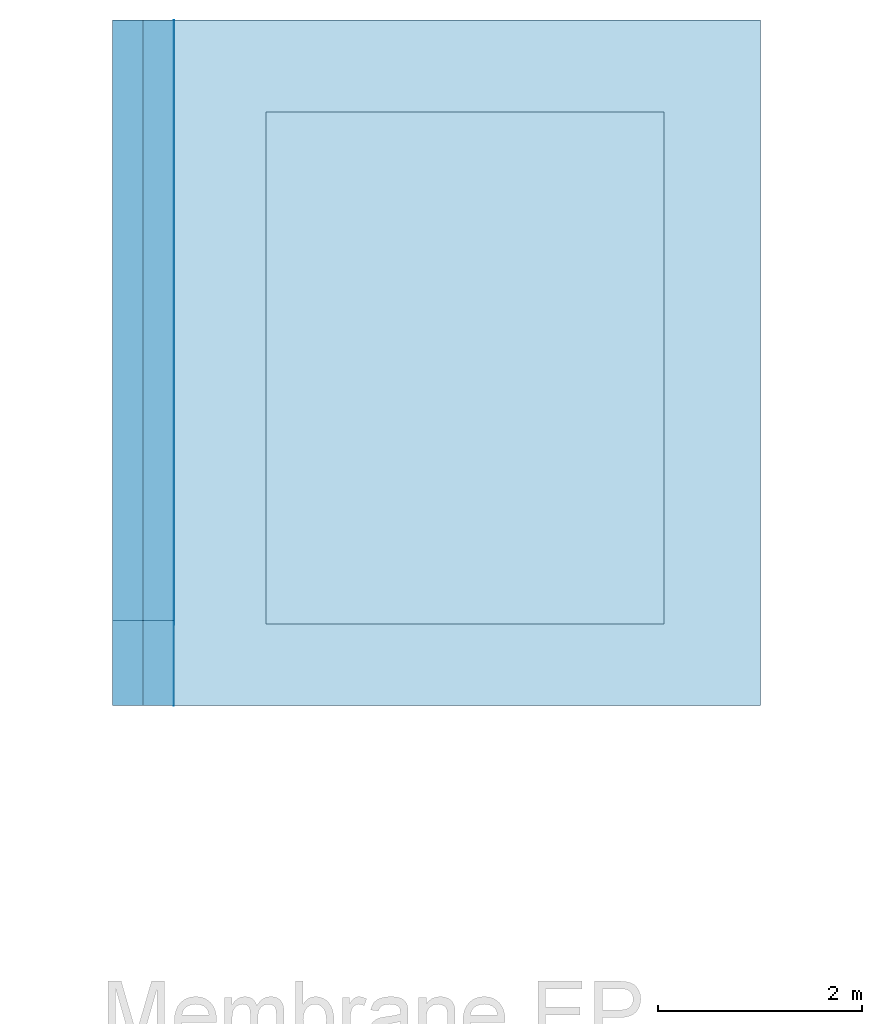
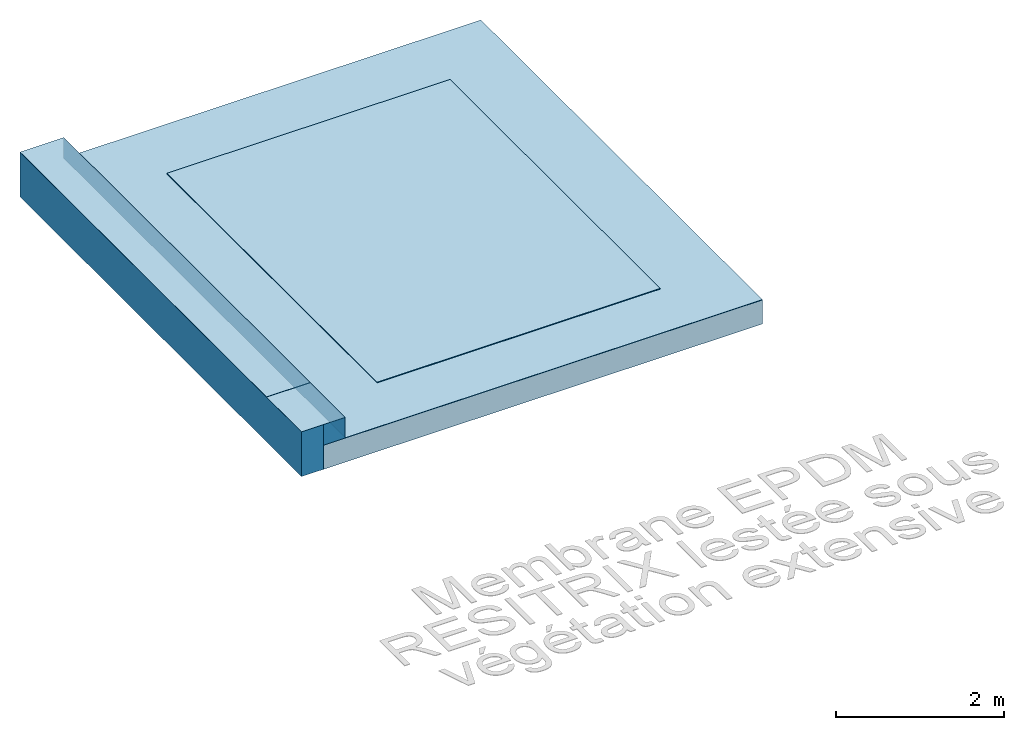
# One storey, incomplete: 5 slabs, 4 walls, 5 elements without a shape of their own.
"""IFC2X3 building model written with IfcOpenShell, lengths in millimetres."""

from ifc_helpers import new_model, entity, si_unit, converted_unit, derived_unit, direction, frame, frame_2d, origin, place, context, subcontext, project, spatial, rectangle, extrude, clip, halfspace, material, layer, layer_set, layer_usage, type_object, element, aggregate, save


model = new_model("IFC2X3")

# Units and contexts
model_context = context("Model", 3, precision=0.01, world=origin(), true_north=direction((6.12303176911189e-17, 1.0)))
body_context = subcontext(model_context, "Body", "Model", "MODEL_VIEW")
ifc_project = project(units=[si_unit("LENGTHUNIT", "METRE", prefix="MILLI"), si_unit("AREAUNIT", "SQUARE_METRE"), si_unit("VOLUMEUNIT", "CUBIC_METRE"), converted_unit("PLANEANGLEUNIT", "DEGREE", entity("IfcRatioMeasure", 0.0174532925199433), si_unit("PLANEANGLEUNIT", "RADIAN"), dimensions=[0, 0, 0, 0, 0, 0, 0]), si_unit("MASSUNIT", "GRAM", prefix="KILO"), derived_unit("MASSDENSITYUNIT", [(si_unit("MASSUNIT", "GRAM", prefix="KILO"), 1), (si_unit("LENGTHUNIT", "METRE"), -3)]), derived_unit("MOMENTOFINERTIAUNIT", [(si_unit("LENGTHUNIT", "METRE"), 4)]), si_unit("TIMEUNIT", "SECOND"), si_unit("FREQUENCYUNIT", "HERTZ"), si_unit("THERMODYNAMICTEMPERATUREUNIT", "DEGREE_CELSIUS"), derived_unit("THERMALTRANSMITTANCEUNIT", [(si_unit("MASSUNIT", "GRAM", prefix="KILO"), 1), (si_unit("THERMODYNAMICTEMPERATUREUNIT", "KELVIN"), -1), (si_unit("TIMEUNIT", "SECOND"), -3)]), derived_unit("VOLUMETRICFLOWRATEUNIT", [(si_unit("LENGTHUNIT", "METRE"), 3), (si_unit("TIMEUNIT", "SECOND"), -1)]), si_unit("ELECTRICCURRENTUNIT", "AMPERE"), si_unit("ELECTRICVOLTAGEUNIT", "VOLT"), si_unit("POWERUNIT", "WATT"), si_unit("FORCEUNIT", "NEWTON", prefix="KILO"), si_unit("ILLUMINANCEUNIT", "LUX"), si_unit("LUMINOUSFLUXUNIT", "LUMEN"), si_unit("LUMINOUSINTENSITYUNIT", "CANDELA"), derived_unit("USERDEFINED", [(si_unit("MASSUNIT", "GRAM", prefix="KILO"), -1), (si_unit("LENGTHUNIT", "METRE"), -2), (si_unit("TIMEUNIT", "SECOND"), 3), (si_unit("LUMINOUSFLUXUNIT", "LUMEN"), 1)]), derived_unit("LINEARVELOCITYUNIT", [(si_unit("LENGTHUNIT", "METRE"), 1), (si_unit("TIMEUNIT", "SECOND"), -1)]), si_unit("PRESSUREUNIT", "PASCAL"), derived_unit("USERDEFINED", [(si_unit("LENGTHUNIT", "METRE"), -2), (si_unit("MASSUNIT", "GRAM", prefix="KILO"), 1), (si_unit("TIMEUNIT", "SECOND"), -2)]), derived_unit("LINEARFORCEUNIT", [(si_unit("MASSUNIT", "GRAM", prefix="KILO"), 1), (si_unit("LENGTHUNIT", "METRE"), 1), (si_unit("TIMEUNIT", "SECOND"), -2), (si_unit("LENGTHUNIT", "METRE"), -1)]), derived_unit("PLANARFORCEUNIT", [(si_unit("MASSUNIT", "GRAM", prefix="KILO"), 1), (si_unit("LENGTHUNIT", "METRE"), 1), (si_unit("TIMEUNIT", "SECOND"), -2), (si_unit("LENGTHUNIT", "METRE"), -2)])], contexts=[model_context])

# Site, building, storey
site_placement = place(None, origin())
site = spatial("IfcSite", under=ifc_project, at=site_placement, Name="Default", CompositionType="ELEMENT")
building_placement = place(site_placement, origin())
building = spatial("IfcBuilding", under=site, at=building_placement, CompositionType="ELEMENT")
storey_placement = place(building_placement, origin())
storey = spatial("IfcBuildingStorey", under=building, at=storey_placement, Name="Niveau 1", CompositionType="ELEMENT", Elevation=0.0)

# Roof, slab
roof_1_placement = place(storey_placement, frame((39627.7553681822, 5160.62545921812, 135.2)))
roof_1 = element("IfcRoof", 1, at=roof_1_placement, inside=storey, Name="Toit de base:Membrane RESITRIX EPDM lestée avec végétation extensive", ObjectType="Toit de base:Membrane RESITRIX EPDM lestée avec végétation extensive", ShapeType="NOTDEFINED")
ifc_material_1 = material(Name="Membrane Resitrix EPDM lestée avec végétation extensive")
ifc_layer_1 = layer(ifc_material_1, 2.1)
ifc_material_2 = material(Name="Armature en fibre de verre")
ifc_layer_2 = layer(ifc_material_2, 1.0)
ifc_layer_set_1 = layer_set([ifc_layer_1, ifc_layer_2], Name="Toit de base:Membrane RESITRIX EPDM lestée avec végétation extensive")
slab_type_1 = type_object("IfcSlabType", Name="Toit de base:Membrane RESITRIX EPDM lestée avec végétation extensive", PredefinedType="ROOF")
slab_1_placement = place(roof_1_placement, origin())
slab_1 = element("IfcSlab", 2, at=slab_1_placement, type_object=slab_type_1, material=ifc_layer_set_1, Name="Toit de base:Membrane RESITRIX EPDM lestée avec végétation extensive", ObjectType="Toit de base:Membrane RESITRIX EPDM lestée avec végétation extensive", PredefinedType="ROOF", context=body_context, shape_type="SweptSolid", body=[
    extrude(rectangle(XDim=6714.46153846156, YDim=5746.95000000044, at=frame_2d((0.0, 4.54747350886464e-13), x_axis=(0.0, 1.0))), frame((2873.47500000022, 3357.23076923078, 0.0)), (0.0, 0.0, 1.0), 3.10000000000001),
])
aggregate(roof_1, [slab_1])

roof_2_placement = place(storey_placement, frame((39327.7553681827, 5160.62545921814, -215.6)))
roof_2 = element("IfcRoof", 3, at=roof_2_placement, inside=storey, Name="Toit de base:Toit 1", ObjectType="Toit de base:Toit 1", ShapeType="NOTDEFINED")
ifc_material_3 = material(Name="Isolation")
ifc_layer_3 = layer(ifc_material_3, 100.0)
ifc_material_4 = material(Name="Pare vapeur")
ifc_layer_4 = layer(ifc_material_4, 0.8)
ifc_material_5 = material(Name="Béton de pente")
ifc_layer_5 = layer(ifc_material_5, 50.0)
ifc_material_6 = material(Name="Structure porteuse")
ifc_layer_6 = layer(ifc_material_6, 200.0)
ifc_layer_set_2 = layer_set([ifc_layer_3, ifc_layer_4, ifc_layer_5, ifc_layer_6], Name="Toit de base:Toit 1")
slab_type_2 = type_object("IfcSlabType", Name="Toit de base:Toit 1", PredefinedType="ROOF")
slab_2_placement = place(roof_2_placement, origin())
slab_2 = element("IfcSlab", 4, at=slab_2_placement, type_object=slab_type_2, material=ifc_layer_set_2, Name="Toit de base:Toit 1", ObjectType="Toit de base:Toit 1", PredefinedType="ROOF", context=body_context, shape_type="SweptSolid", body=[
    extrude(rectangle(XDim=6046.95, YDim=6714.46153846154, at=frame_2d((4.32009983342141e-12, 0.0), x_axis=(1.0, 0.0))), frame((3023.47499999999, 3357.23076923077, 0.0)), (0.0, 0.0, 1.0), 350.8),
])
aggregate(roof_2, [slab_2])

roof_3_placement = place(storey_placement, frame((39027.7553681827, 5994.95285740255, 436.0)))
roof_3 = element("IfcRoof", 5, at=roof_3_placement, inside=storey, Name="Toit de base:Membrane RESITRIX SK W Full bond colléé", ObjectType="Toit de base:Membrane RESITRIX SK W Full bond colléé", ShapeType="NOTDEFINED")
ifc_material_7 = material(Name="Caoutchouc EPDM SK W Full bond collée")
ifc_layer_7 = layer(ifc_material_7, 1.5)
ifc_layer_8 = layer(ifc_material_2, 1.0)
ifc_layer_set_3 = layer_set([ifc_layer_7, ifc_layer_8], Name="Toit de base:Membrane RESITRIX SK W Full bond colléé")
slab_type_3 = type_object("IfcSlabType", Name="Toit de base:Membrane RESITRIX SK W Full bond colléé", PredefinedType="ROOF")
slab_3_placement = place(roof_3_placement, origin())
slab_3 = element("IfcSlab", 6, at=slab_3_placement, type_object=slab_type_3, material=ifc_layer_set_3, Name="Toit de base:Membrane RESITRIX SK W Full bond colléé", ObjectType="Toit de base:Membrane RESITRIX SK W Full bond colléé", PredefinedType="ROOF", context=body_context, shape_type="SweptSolid", body=[
    extrude(rectangle(XDim=5880.0, YDim=603.300000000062, at=frame_2d((0.0, 6.82121026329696e-13), x_axis=(0.0, 1.0))), frame((301.650000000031, 2940.0, 0.0)), (0.0, 0.0, 1.0), 2.49999999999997),
])
aggregate(roof_3, [slab_3])

roof_4_placement = place(storey_placement, frame((39027.7553681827, 5160.49131894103, 435.2)))
roof_4 = element("IfcRoof", 7, at=roof_4_placement, inside=storey, Name="Toit de base:Primer d’adhérence FG35", ObjectType="Toit de base:Primer d’adhérence FG35", ShapeType="NOTDEFINED")
ifc_material_8 = material(Name="Primer d’adhérence FG35")
ifc_layer_9 = layer(ifc_material_8, 0.8)
ifc_layer_set_4 = layer_set([ifc_layer_9], Name="Toit de base:Primer d’adhérence FG35")
slab_type_4 = type_object("IfcSlabType", Name="Toit de base:Primer d’adhérence FG35", PredefinedType="ROOF")
slab_4_placement = place(roof_4_placement, origin())
slab_4 = element("IfcSlab", 8, at=slab_4_placement, type_object=slab_type_4, material=ifc_layer_set_4, Name="Toit de base:Primer d’adhérence FG35", ObjectType="Toit de base:Primer d’adhérence FG35", PredefinedType="ROOF", context=body_context, shape_type="SweptSolid", body=[
    extrude(rectangle(XDim=6714.46153846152, YDim=603.300000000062, at=frame_2d((0.0, 4.54747350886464e-13), x_axis=(0.0, 1.0))), frame((301.650000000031, 3357.23076923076, 0.0)), (0.0, 0.0, 1.0), 0.800000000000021),
])
aggregate(roof_4, [slab_4])

roof_5_placement = place(storey_placement, frame((40529.8053681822, 5960.491318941, 138.3)))
roof_5 = element("IfcRoof", 9, at=roof_5_placement, inside=storey, Name="Toit de base:Végétation", ObjectType="Toit de base:Végétation", ShapeType="NOTDEFINED")
ifc_material_9 = material(Name="Végétation extensive")
ifc_layer_10 = layer(ifc_material_9, 10.0)
ifc_layer_set_5 = layer_set([ifc_layer_10], Name="Toit de base:Végétation")
slab_type_5 = type_object("IfcSlabType", Name="Toit de base:Végétation", PredefinedType="ROOF")
slab_5_placement = place(roof_5_placement, origin())
slab_5 = element("IfcSlab", 10, at=slab_5_placement, type_object=slab_type_5, material=ifc_layer_set_5, Name="Toit de base:Végétation", ObjectType="Toit de base:Végétation", PredefinedType="ROOF", context=body_context, shape_type="SweptSolid", body=[
    extrude(rectangle(XDim=5015.46153846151, YDim=3900.0, at=frame_2d((0.0, 6.82121026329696e-13), x_axis=(0.0, 1.0))), frame((1950.0, 2507.73076923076, 0.0)), (0.0, 0.0, 1.0), 9.99999999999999),
])
aggregate(roof_5, [slab_5])

# Walls
ifc_layer_11 = layer(ifc_material_3, 100.0)
ifc_material_10 = material(Name="Maçonnerie ascendante")
ifc_layer_12 = layer(ifc_material_10, 200.0)
ifc_layer_set_6 = layer_set([ifc_layer_11, ifc_layer_12], Name="Mur de base:Mur 1")
ifc_layer_usage_1 = layer_usage(ifc_layer_set_6, "AXIS2", "NEGATIVE", 150.0)
wall_type_1 = type_object("IfcWallType", Name="Mur de base:Mur 1", PredefinedType="STANDARD", material=ifc_layer_set_6)
wall_1_placement = place(storey_placement, frame((39177.7553681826, 11875.0869976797, -215.6), z_axis=(0.0, 0.0, 1.0), x_axis=(0.0, -1.0, 0.0)))
element("IfcWallStandardCase", 11, at=wall_1_placement, inside=storey, type_object=wall_type_1, material=ifc_layer_usage_1, Name="Mur de base:Mur 1", ObjectType="Mur de base:Mur 1", context=body_context, shape_type="SweptSolid", body=[
    extrude(rectangle(XDim=6714.46153846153, YDim=300.000000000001, at=frame_2d((3357.23076923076, 2.71427325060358e-12), x_axis=(-1.0, 0.0))), origin(), (0.0, 0.0, 1.0), 650.8),
])
ifc_layer_usage_2 = layer_usage(ifc_layer_set_6, "AXIS2", "NEGATIVE", 150.0)
wall_2_placement = place(storey_placement, frame((39477.7553681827, 11875.0869976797, 135.2), z_axis=(0.0, 0.0, 1.0), x_axis=(0.0, -1.0, 0.0)))
element("IfcWallStandardCase", 12, at=wall_2_placement, inside=storey, type_object=wall_type_1, material=ifc_layer_usage_2, Name="Mur de base:Mur 1", ObjectType="Mur de base:Mur 1", context=body_context, shape_type="Clipping", body=[
    clip(extrude(rectangle(XDim=6714.46153846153, YDim=300.000000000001, at=frame_2d((3357.23076923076, 2.71427325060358e-12), x_axis=(-1.0, 0.0))), origin(), (0.0, 0.0, 1.0), 300.0), halfspace(frame((6714.46153846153, -150.0, 0.0), z_axis=(0.0, 0.0, -1.0), x_axis=(0.0, 1.0, 0.0)), False)),
])
ifc_layer_13 = layer(ifc_material_7, 1.5)
ifc_layer_14 = layer(ifc_material_2, 1.0)
ifc_layer_set_7 = layer_set([ifc_layer_13, ifc_layer_14], Name="Mur de base:Membrane RESITRIX SK W EPDM Full bond")
ifc_layer_usage_3 = layer_usage(ifc_layer_set_7, "AXIS2", "NEGATIVE", 1.25)
wall_type_2 = type_object("IfcWallType", Name="Mur de base:Membrane RESITRIX SK W EPDM Full bond", PredefinedType="STANDARD", material=ifc_layer_set_7)
wall_3_placement = place(storey_placement, frame((39629.8053681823, 11874.9528574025, 139.1), z_axis=(0.0, 0.0, 1.0), x_axis=(0.0, -1.0, 0.0)))
element("IfcWallStandardCase", 13, at=wall_3_placement, inside=storey, type_object=wall_type_2, material=ifc_layer_usage_3, Name="Mur de base:Membrane RESITRIX SK W EPDM Full bond", ObjectType="Mur de base:Membrane RESITRIX SK W EPDM Full bond", context=body_context, shape_type="SweptSolid", body=[
    extrude(rectangle(XDim=5920.0, YDim=2.50000000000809, at=frame_2d((2960.0, -3.43025607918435e-12), x_axis=(-1.0, 0.0))), origin(), (0.0, 0.0, 1.0), 296.1),
])
ifc_layer_15 = layer(ifc_material_8, 0.8)
ifc_layer_set_8 = layer_set([ifc_layer_15], Name="Mur de base:Primer d’adhérence FG35")
ifc_layer_usage_4 = layer_usage(ifc_layer_set_8, "AXIS2", "NEGATIVE", 0.4)
wall_type_3 = type_object("IfcWallType", Name="Mur de base:Primer d’adhérence FG35", PredefinedType="STANDARD", material=ifc_layer_set_8)
wall_4_placement = place(storey_placement, frame((39628.1553681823, 11874.9528574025, 139.1), z_axis=(0.0, 0.0, 1.0), x_axis=(0.0, -1.0, 0.0)))
element("IfcWallStandardCase", 14, at=wall_4_placement, inside=storey, type_object=wall_type_3, material=ifc_layer_usage_4, Name="Mur de base:Primer d’adhérence FG35", ObjectType="Mur de base:Primer d’adhérence FG35", context=body_context, shape_type="SweptSolid", body=[
    extrude(rectangle(XDim=6714.46153846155, YDim=0.799999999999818, at=frame_2d((3357.23076923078, -2.1468937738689e-12), x_axis=(-1.0, 0.0))), origin(), (0.0, 0.0, 1.0), 296.1),
])

save(model, "model.ifc")
